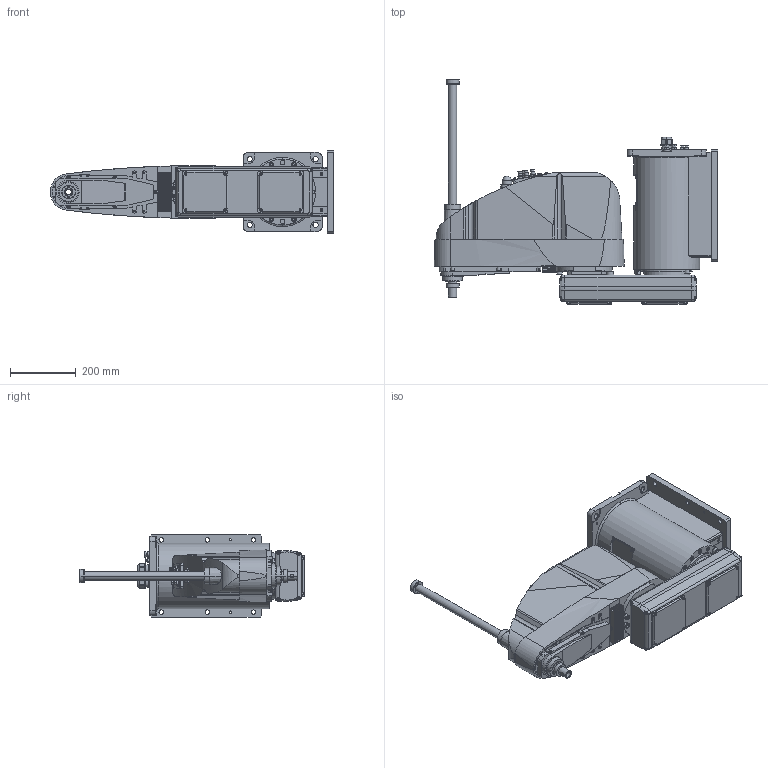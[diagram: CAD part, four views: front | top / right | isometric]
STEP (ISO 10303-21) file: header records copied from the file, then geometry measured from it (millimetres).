
FILE_DESCRIPTION( ( '' ), '1' );
FILE_NAME( '//expscmdclustefs.cadenas.external/client_exchange/iodir/jobs/output/wkb51513082_no0/STEP/G10_654SW_2_14b.stp', '2012-11-22T15:53:26', ( '' ), ( '' ), ' ', ' ', ' ' );
FILE_SCHEMA( ( 'automotive_design' ) );
Length unit declared in the file: millimetre
Products named in the file (4): 1; 2; 3; 4
Bounding box: 860.5 x 681.5 x 250 mm (x, y, z)
Volume: 39789867.8 mm3; surface area: 1472694 mm2
Topology: 4 solids, 4 shells, 1988 faces, 4862 edges, 3161 vertices
Faces by surface type: plane 1098, cylinder 666, cone 196, torus 27, sphere 1
Entity records: 115799 total; most frequent: CARTESIAN_POINT 11554, DIRECTION 10335, STYLED_ITEM 10003, PRESENTATION_STYLE_ASSIGNMENT 10003, COLOUR_RGB 10003, ORIENTED_EDGE 9700, EDGE_CURVE 4850, CURVE_STYLE 4850
